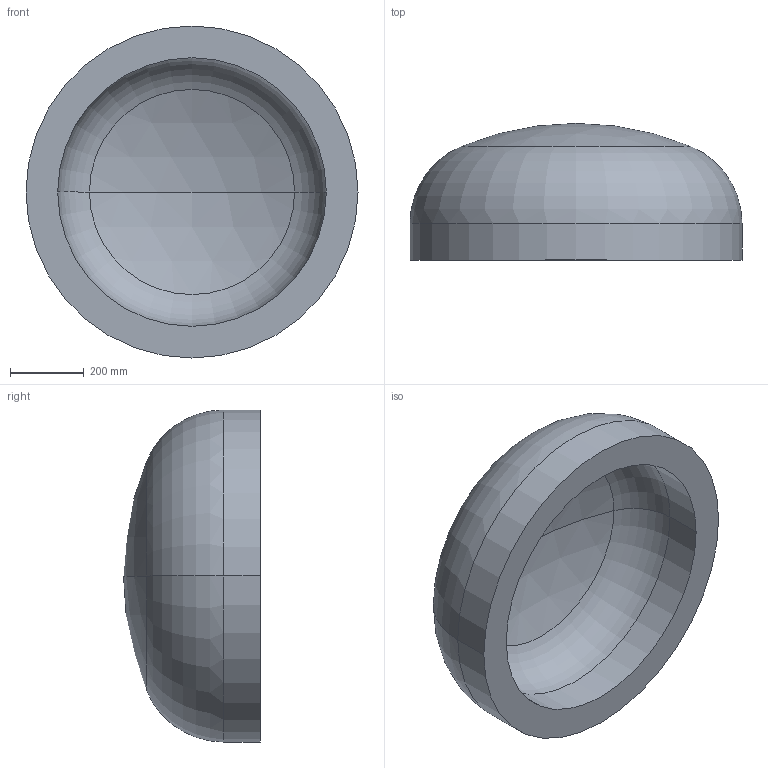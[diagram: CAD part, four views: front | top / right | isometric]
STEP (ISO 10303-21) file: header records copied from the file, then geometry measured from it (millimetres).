
FILE_DESCRIPTION (( 'STEP AP203' ), '1' );
FILE_NAME ('DIN 28013 Korbbogenform_-_Boden DIN 28013 - 900 x 100 - I - s=86.step', '2016-07-01T08:37:05', ( '' ), ( '' ), 'SwSTEP 2.0', 'SolidWorks 2013', '' );
FILE_SCHEMA (( 'CONFIG_CONTROL_DESIGN' ));
Length unit declared in the file: millimetre
Products named in the file (1): DIN 28013 Korbbogenform_-_Boden DIN 28013 - 900 x 100 - I - s=86
Bounding box: 900 x 371 x 900 mm (x, y, z)
Volume: 89435219.8 mm3; surface area: 2315302.7 mm2
Topology: 1 solids, 1 shells, 13 faces, 24 edges, 14 vertices
Faces by surface type: torus 4, cylinder 4, sphere 4, plane 1
Entity records: 407 total; most frequent: DIRECTION 72, CARTESIAN_POINT 52, ORIENTED_EDGE 48, AXIS2_PLACEMENT_3D 34, EDGE_CURVE 24, CIRCLE 20, VERTEX_POINT 14, EDGE_LOOP 14
